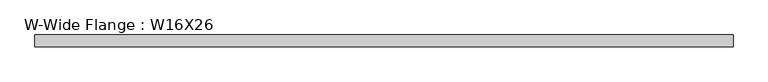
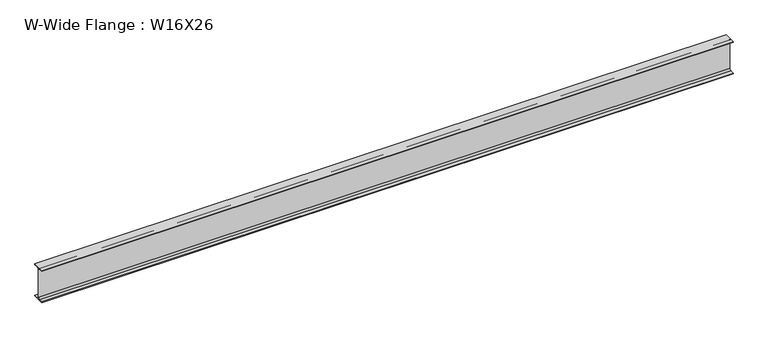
"""IFC4 building model written with IfcOpenShell, lengths in millimetres: beam geometry, W-Wide Flange : W16X26."""

from ifc_helpers import new_model, si_unit, point, frame, frame_2d, origin, place, context, project, spatial, polyline, circle_curve, trimmed, segment, composite_curve, outline, extrude, source, transform, mapped, element, save


def w_wide_flange_w16x26_3658d20b(model_context):
    return source(origin(), model_context, "Body", "SweptSolid", [
        extrude(outline(composite_curve([segment(polyline([(69.85, -190.627), (69.85, -199.39), (-69.85, -199.39), (-69.85, -190.627), (-21.3995, -190.627)]), True, "CONTINUOUS"), segment(trimmed(circle_curve(frame_2d((-21.3995, -172.4025)), 18.2245), [point((-21.3995, -190.627))], [point((-3.175, -172.4025))], True, "CARTESIAN"), True, "CONTINUOUS"), segment(polyline([(-3.175, -172.4025), (-3.175, 172.4025)]), True, "CONTINUOUS"), segment(trimmed(circle_curve(frame_2d((-21.3995, 172.4025)), 18.2245), [point((-3.175, 172.4025))], [point((-21.3995, 190.627))], True, "CARTESIAN"), True, "CONTINUOUS"), segment(polyline([(-21.3995, 190.627), (-69.85, 190.627), (-69.85, 199.39), (69.85, 199.39), (69.85, 190.627), (21.3995, 190.627)]), True, "CONTINUOUS"), segment(trimmed(circle_curve(frame_2d((21.3995, 172.4025)), 18.2245), [point((21.3995, 190.627))], [point((3.175, 172.4025))], True, "CARTESIAN"), True, "CONTINUOUS"), segment(polyline([(3.175, 172.4025), (3.175, -172.4025)]), True, "CONTINUOUS"), segment(trimmed(circle_curve(frame_2d((21.3995, -172.4025)), 18.2245), [point((3.175, -172.4025))], [point((21.3995, -190.627))], True, "CARTESIAN"), True, "CONTINUOUS"), segment(polyline([(21.3995, -190.627), (69.85, -190.627)]), True, "CONTINUOUS")], self_intersect=False)), frame((-4105.2253906, 0.0, 0.0), z_axis=(1.0, 0.0, 0.0), x_axis=(0.0, 1.0, 0.0)), (0.0, 0.0, 1.0), 8138.2195313),
    ])


if __name__ == "__main__":
    model = new_model("IFC4")
    model_context = context("Model", 3, world=origin())
    ifc_project = project(units=[si_unit("LENGTHUNIT", "METRE", prefix="MILLI")], contexts=[model_context])
    site = spatial("IfcSite", under=ifc_project)
    building = spatial("IfcBuilding", under=site)
    placement = place(None, origin())
    w_wide_flange_w16x26_shape = w_wide_flange_w16x26_3658d20b(model_context)
    element("IfcBeam", 1, ObjectType="W-Wide Flange : W16X26", at=placement, inside=building, context=model_context, shape_type="MappedRepresentation", body=[
        mapped(w_wide_flange_w16x26_shape, transform((0.0, 0.0, 0.0), x_axis=(1.0, 0.0, 0.0), y_axis=(0.0, 1.0, 0.0), z_axis=(0.0, 0.0, 1.0))),
    ])
    save(model, "model.ifc")
